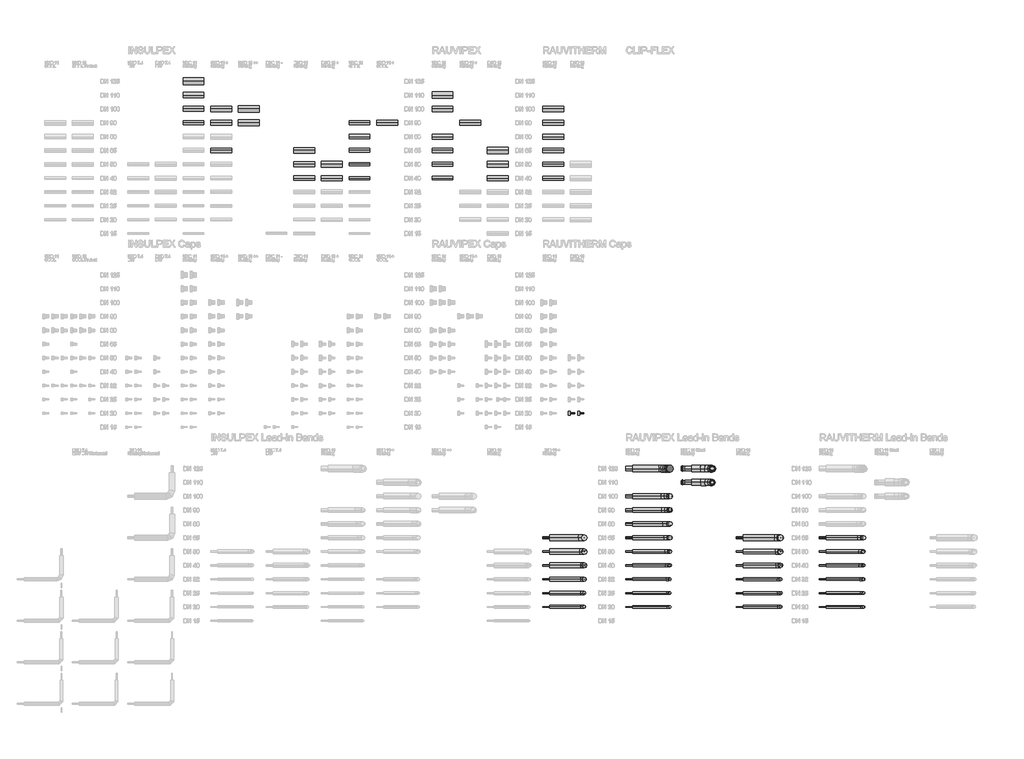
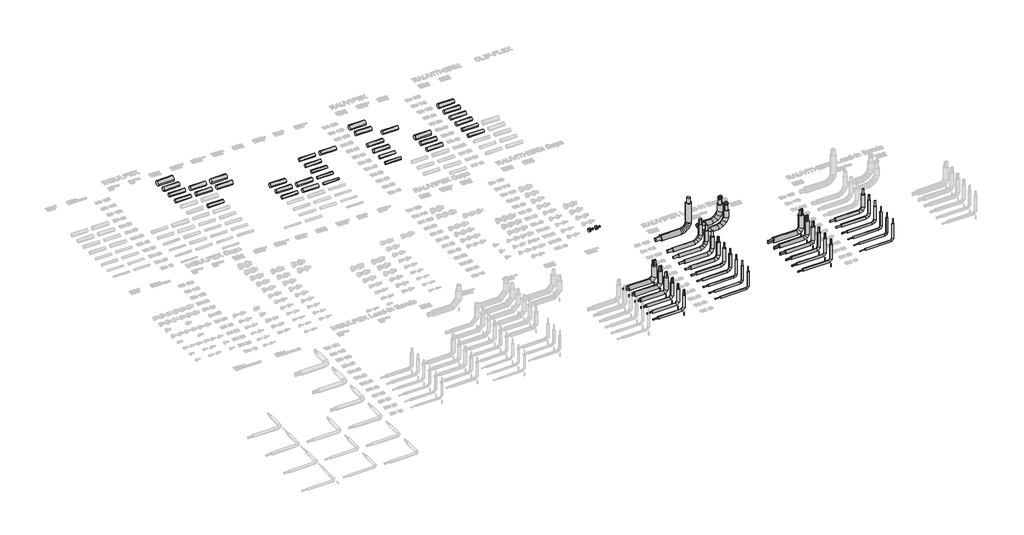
# One storey, part 7 of 44: 36 pipe segments, 32 pipe fittings.
"""IFC4 building model written with IfcOpenShell, lengths in millimetres."""

from ifc_helpers import new_model, si_unit, point, frame, frame_2d, origin, place, context, project, spatial, circle_curve, trimmed, segment, composite_curve, outline, extrude, transform, mapped, element, save
from components import dh_duo_cap_4b5125b2, dh_lead_in_bend_4d10f37f, dh_lead_in_bend_729ed1e1, dh_lead_in_bend_f578bc5f, dh_lead_in_bend_7c9c8f80, dh_lead_in_bend_f66b3f8e, dh_lead_in_bend_a3bf7bc0, dh_lead_in_bend_39a4672d, dh_lead_in_bend_2889cfca, dh_lead_in_bend_01470123, dh_lead_in_bend_c489b661, dh_lead_in_bend_f1abdf10, dh_lead_in_bend_31b992d6, dh_lead_in_bend_53604a29, dh_lead_in_bend_cc4b5283, dh_lead_in_bend_a8513684, dh_lead_in_bend_f3e9e936, dh_lead_in_bend_a209e62e, dh_lead_in_bend_a80b687c, dh_lead_in_bend_594914a1, dh_lead_in_bend_a448e4b1, dh_lead_in_bend_b3935c15, dh_lead_in_bend_179b0c8a, dh_lead_in_bend_0ec1a931, dh_lead_in_bend_c3c84462

model = new_model("IFC4")

# Units and contexts
model_context = context("Model", 3, world=origin())
ifc_project = project(units=[si_unit("LENGTHUNIT", "METRE", prefix="MILLI")], contexts=[model_context])

# Site, building, storey
site = spatial("IfcSite", under=ifc_project)
building = spatial("IfcBuilding", under=site)
storey = spatial("IfcBuildingStorey", under=building, Name="REHAU Starting view", Elevation=0.0)

# Pipe fittings
placement = place(None, origin())
dh_duo_cap_shape = dh_duo_cap_4b5125b2(model_context)
element("IfcPipeFitting", 1, ObjectType="DH_DUO_CAP : RAUVITHERM DUO 11 Heating - Rubber Cap", at=placement, inside=storey, context=model_context, shape_type="MappedRepresentation", body=[
    mapped(dh_duo_cap_shape, transform((32330.0, 7500.0, 0.0), x_axis=(1.0, 0.0, 0.0), y_axis=(0.0, 1.0, 0.0), z_axis=(0.0, 0.0, 1.0))),
])
element("IfcPipeFitting", 2, ObjectType="DH_DUO_CAP : RAUVITHERM DUO 11 Heating - Schrink Cap", at=placement, inside=storey, context=model_context, shape_type="MappedRepresentation", body=[
    mapped(dh_duo_cap_shape, transform((32000.0, 7500.0, 0.0), x_axis=(1.0, 0.0, 0.0), y_axis=(0.0, 1.0, 0.0), z_axis=(0.0, 0.0, 1.0))),
])
dh_lead_in_bend_shape = dh_lead_in_bend_4d10f37f(model_context)
element("IfcPipeFitting", 3, ObjectType="DH_Lead-in Bend : RVT/RVX/RTX DUO 11 Heating Vertical", at=placement, inside=storey, context=model_context, shape_type="MappedRepresentation", body=[
    mapped(dh_lead_in_bend_shape, transform((39600.0, 1000.0, 0.0), x_axis=(1.0, 0.0, 0.0), y_axis=(0.0, 0.0, 1.0), z_axis=(0.0, -1.0, 0.0))),
])
dh_lead_in_bend_2_shape = dh_lead_in_bend_729ed1e1(model_context)
element("IfcPipeFitting", 4, ObjectType="DH_Lead-in Bend : RVT/RVX/RTX UNO 11 Heating Steel", at=placement, inside=storey, context=model_context, shape_type="MappedRepresentation", body=[
    mapped(dh_lead_in_bend_2_shape, transform((37127.0, 5000.0, 0.0), x_axis=(1.0, 0.0, 0.0), y_axis=(0.0, 0.0, 1.0), z_axis=(0.0, -1.0, 0.0))),
])
dh_lead_in_bend_3_shape = dh_lead_in_bend_f578bc5f(model_context)
element("IfcPipeFitting", 5, ObjectType="DH_Lead-in Bend : INSULPEX DUO + 11 Heating Vertical", at=placement, inside=storey, context=model_context, shape_type="MappedRepresentation", body=[
    mapped(dh_lead_in_bend_3_shape, transform((32500.0, 500.0, 0.0), x_axis=(1.0, 0.0, 0.0), y_axis=(0.0, 0.0, 1.0), z_axis=(0.0, -1.0, 0.0))),
])
dh_lead_in_bend_4_shape = dh_lead_in_bend_7c9c8f80(model_context)
element("IfcPipeFitting", 6, ObjectType="DH_Lead-in Bend : RVT/RVX/RTX UNO 11 Heating", at=placement, inside=storey, context=model_context, shape_type="MappedRepresentation", body=[
    mapped(dh_lead_in_bend_4_shape, transform((35600.0, 500.0, 0.0), x_axis=(1.0, 0.0, 0.0), y_axis=(0.0, 0.0, 1.0), z_axis=(0.0, -1.0, 0.0))),
])
element("IfcPipeFitting", 7, ObjectType="DH_Lead-in Bend : RVT/RVX/RTX UNO 11 Heating", at=placement, inside=storey, context=model_context, shape_type="MappedRepresentation", body=[
    mapped(dh_lead_in_bend_4_shape, transform((42600.0, 500.0, 0.0), x_axis=(1.0, 0.0, 0.0), y_axis=(0.0, 0.0, 1.0), z_axis=(0.0, -1.0, 0.0))),
])
dh_lead_in_bend_5_shape = dh_lead_in_bend_f66b3f8e(model_context)
element("IfcPipeFitting", 8, ObjectType="DH_Lead-in Bend : INSULPEX DUO + 11 Heating Vertical", at=placement, inside=storey, context=model_context, shape_type="MappedRepresentation", body=[
    mapped(dh_lead_in_bend_5_shape, transform((32500.0, 1000.0, 0.0), x_axis=(1.0, 0.0, 0.0), y_axis=(0.0, 0.0, 1.0), z_axis=(0.0, -1.0, 0.0))),
])
dh_lead_in_bend_6_shape = dh_lead_in_bend_a3bf7bc0(model_context)
element("IfcPipeFitting", 9, ObjectType="DH_Lead-in Bend : INSULPEX DUO + 11 Heating Vertical", at=placement, inside=storey, context=model_context, shape_type="MappedRepresentation", body=[
    mapped(dh_lead_in_bend_6_shape, transform((32500.0, 1500.0, 0.0), x_axis=(1.0, 0.0, 0.0), y_axis=(0.0, 0.0, 1.0), z_axis=(0.0, -1.0, 0.0))),
])
dh_lead_in_bend_7_shape = dh_lead_in_bend_39a4672d(model_context)
element("IfcPipeFitting", 10, ObjectType="DH_Lead-in Bend : INSULPEX DUO + 11 Heating Vertical", at=placement, inside=storey, context=model_context, shape_type="MappedRepresentation", body=[
    mapped(dh_lead_in_bend_7_shape, transform((32500.0, 2000.0, 0.0), x_axis=(1.0, 0.0, 0.0), y_axis=(0.0, 0.0, 1.0), z_axis=(0.0, -1.0, 0.0))),
])
dh_lead_in_bend_8_shape = dh_lead_in_bend_2889cfca(model_context)
element("IfcPipeFitting", 11, ObjectType="DH_Lead-in Bend : INSULPEX DUO + 11 Heating Vertical", at=placement, inside=storey, context=model_context, shape_type="MappedRepresentation", body=[
    mapped(dh_lead_in_bend_8_shape, transform((32500.0, 2500.0, 0.0), x_axis=(1.0, 0.0, 0.0), y_axis=(0.0, 0.0, 1.0), z_axis=(0.0, -1.0, 0.0))),
])
dh_lead_in_bend_9_shape = dh_lead_in_bend_01470123(model_context)
element("IfcPipeFitting", 12, ObjectType="DH_Lead-in Bend : RVT/RVX/RTX DUO 11 Heating Vertical", at=placement, inside=storey, context=model_context, shape_type="MappedRepresentation", body=[
    mapped(dh_lead_in_bend_9_shape, transform((39600.0, 500.0, 0.0), x_axis=(1.0, 0.0, 0.0), y_axis=(0.0, 0.0, 1.0), z_axis=(0.0, -1.0, 0.0))),
])
dh_lead_in_bend_10_shape = dh_lead_in_bend_c489b661(model_context)
element("IfcPipeFitting", 13, ObjectType="DH_Lead-in Bend : RVT/RVX/RTX DUO 11 Heating Vertical", at=placement, inside=storey, context=model_context, shape_type="MappedRepresentation", body=[
    mapped(dh_lead_in_bend_10_shape, transform((39600.0, 1500.0, 0.0), x_axis=(1.0, 0.0, 0.0), y_axis=(0.0, 0.0, 1.0), z_axis=(0.0, -1.0, 0.0))),
])
dh_lead_in_bend_11_shape = dh_lead_in_bend_f1abdf10(model_context)
element("IfcPipeFitting", 14, ObjectType="DH_Lead-in Bend : RVT/RVX/RTX DUO 11 Heating Vertical", at=placement, inside=storey, context=model_context, shape_type="MappedRepresentation", body=[
    mapped(dh_lead_in_bend_11_shape, transform((39600.0, 2000.0, 0.0), x_axis=(1.0, 0.0, 0.0), y_axis=(0.0, 0.0, 1.0), z_axis=(0.0, -1.0, 0.0))),
])
dh_lead_in_bend_12_shape = dh_lead_in_bend_31b992d6(model_context)
element("IfcPipeFitting", 15, ObjectType="DH_Lead-in Bend : RVT/RVX/RTX DUO 11 Heating Vertical", at=placement, inside=storey, context=model_context, shape_type="MappedRepresentation", body=[
    mapped(dh_lead_in_bend_12_shape, transform((39600.0, 2500.0, 0.0), x_axis=(1.0, 0.0, 0.0), y_axis=(0.0, 0.0, 1.0), z_axis=(0.0, -1.0, 0.0))),
])
dh_lead_in_bend_13_shape = dh_lead_in_bend_53604a29(model_context)
element("IfcPipeFitting", 16, ObjectType="DH_Lead-in Bend : RVT/RVX/RTX DUO 11 Heating Vertical", at=placement, inside=storey, context=model_context, shape_type="MappedRepresentation", body=[
    mapped(dh_lead_in_bend_13_shape, transform((39600.0, 3000.0, 0.0), x_axis=(1.0, 0.0, 0.0), y_axis=(0.0, 0.0, 1.0), z_axis=(0.0, -1.0, 0.0))),
])
dh_lead_in_bend_14_shape = dh_lead_in_bend_cc4b5283(model_context)
element("IfcPipeFitting", 17, ObjectType="DH_Lead-in Bend : RVT/RVX/RTX UNO 11 Heating", at=placement, inside=storey, context=model_context, shape_type="MappedRepresentation", body=[
    mapped(dh_lead_in_bend_14_shape, transform((35600.0, 1000.0, 0.0), x_axis=(1.0, 0.0, 0.0), y_axis=(0.0, 0.0, 1.0), z_axis=(0.0, -1.0, 0.0))),
])
element("IfcPipeFitting", 18, ObjectType="DH_Lead-in Bend : RVT/RVX/RTX UNO 11 Heating", at=placement, inside=storey, context=model_context, shape_type="MappedRepresentation", body=[
    mapped(dh_lead_in_bend_14_shape, transform((42600.0, 1000.0, 0.0), x_axis=(1.0, 0.0, 0.0), y_axis=(0.0, 0.0, 1.0), z_axis=(0.0, -1.0, 0.0))),
])
dh_lead_in_bend_15_shape = dh_lead_in_bend_a8513684(model_context)
element("IfcPipeFitting", 19, ObjectType="DH_Lead-in Bend : RVT/RVX/RTX UNO 11 Heating", at=placement, inside=storey, context=model_context, shape_type="MappedRepresentation", body=[
    mapped(dh_lead_in_bend_15_shape, transform((35600.0, 1500.0, 0.0), x_axis=(1.0, 0.0, 0.0), y_axis=(0.0, 0.0, 1.0), z_axis=(0.0, -1.0, 0.0))),
])
element("IfcPipeFitting", 20, ObjectType="DH_Lead-in Bend : RVT/RVX/RTX UNO 11 Heating", at=placement, inside=storey, context=model_context, shape_type="MappedRepresentation", body=[
    mapped(dh_lead_in_bend_15_shape, transform((42600.0, 1500.0, 0.0), x_axis=(1.0, 0.0, 0.0), y_axis=(0.0, 0.0, 1.0), z_axis=(0.0, -1.0, 0.0))),
])
dh_lead_in_bend_16_shape = dh_lead_in_bend_f3e9e936(model_context)
element("IfcPipeFitting", 21, ObjectType="DH_Lead-in Bend : RVT/RVX/RTX UNO 11 Heating", at=placement, inside=storey, context=model_context, shape_type="MappedRepresentation", body=[
    mapped(dh_lead_in_bend_16_shape, transform((35600.0, 2000.0, 0.0), x_axis=(1.0, 0.0, 0.0), y_axis=(0.0, 0.0, 1.0), z_axis=(0.0, -1.0, 0.0))),
])
element("IfcPipeFitting", 22, ObjectType="DH_Lead-in Bend : RVT/RVX/RTX UNO 11 Heating", at=placement, inside=storey, context=model_context, shape_type="MappedRepresentation", body=[
    mapped(dh_lead_in_bend_16_shape, transform((42600.0, 2000.0, 0.0), x_axis=(1.0, 0.0, 0.0), y_axis=(0.0, 0.0, 1.0), z_axis=(0.0, -1.0, 0.0))),
])
dh_lead_in_bend_17_shape = dh_lead_in_bend_a209e62e(model_context)
element("IfcPipeFitting", 23, ObjectType="DH_Lead-in Bend : RVT/RVX/RTX UNO 11 Heating", at=placement, inside=storey, context=model_context, shape_type="MappedRepresentation", body=[
    mapped(dh_lead_in_bend_17_shape, transform((35600.0, 2500.0, 0.0), x_axis=(1.0, 0.0, 0.0), y_axis=(0.0, 0.0, 1.0), z_axis=(0.0, -1.0, 0.0))),
])
element("IfcPipeFitting", 24, ObjectType="DH_Lead-in Bend : RVT/RVX/RTX UNO 11 Heating", at=placement, inside=storey, context=model_context, shape_type="MappedRepresentation", body=[
    mapped(dh_lead_in_bend_17_shape, transform((42600.0, 2500.0, 0.0), x_axis=(1.0, 0.0, 0.0), y_axis=(0.0, 0.0, 1.0), z_axis=(0.0, -1.0, 0.0))),
])
dh_lead_in_bend_18_shape = dh_lead_in_bend_a80b687c(model_context)
element("IfcPipeFitting", 25, ObjectType="DH_Lead-in Bend : RVT/RVX/RTX UNO 11 Heating", at=placement, inside=storey, context=model_context, shape_type="MappedRepresentation", body=[
    mapped(dh_lead_in_bend_18_shape, transform((35600.0, 3000.0, 0.0), x_axis=(1.0, 0.0, 0.0), y_axis=(0.0, 0.0, 1.0), z_axis=(0.0, -1.0, 0.0))),
])
element("IfcPipeFitting", 26, ObjectType="DH_Lead-in Bend : RVT/RVX/RTX UNO 11 Heating", at=placement, inside=storey, context=model_context, shape_type="MappedRepresentation", body=[
    mapped(dh_lead_in_bend_18_shape, transform((42600.0, 3000.0, 0.0), x_axis=(1.0, 0.0, 0.0), y_axis=(0.0, 0.0, 1.0), z_axis=(0.0, -1.0, 0.0))),
])
dh_lead_in_bend_19_shape = dh_lead_in_bend_594914a1(model_context)
element("IfcPipeFitting", 27, ObjectType="DH_Lead-in Bend : RVT/RVX/RTX UNO 11 Heating", at=placement, inside=storey, context=model_context, shape_type="MappedRepresentation", body=[
    mapped(dh_lead_in_bend_19_shape, transform((35600.0, 3500.0, 0.0), x_axis=(1.0, 0.0, 0.0), y_axis=(0.0, 0.0, 1.0), z_axis=(0.0, -1.0, 0.0))),
])
dh_lead_in_bend_20_shape = dh_lead_in_bend_a448e4b1(model_context)
element("IfcPipeFitting", 28, ObjectType="DH_Lead-in Bend : RVT/RVX/RTX UNO 11 Heating", at=placement, inside=storey, context=model_context, shape_type="MappedRepresentation", body=[
    mapped(dh_lead_in_bend_20_shape, transform((35600.0, 4000.0, 0.0), x_axis=(1.0, 0.0, 0.0), y_axis=(0.0, 0.0, 1.0), z_axis=(0.0, -1.0, 0.0))),
])
dh_lead_in_bend_21_shape = dh_lead_in_bend_b3935c15(model_context)
element("IfcPipeFitting", 29, ObjectType="DH_Lead-in Bend : RVT/RVX/RTX UNO 11 Heating", at=placement, inside=storey, context=model_context, shape_type="MappedRepresentation", body=[
    mapped(dh_lead_in_bend_21_shape, transform((35600.0, 4500.0, 0.0), x_axis=(1.0, 0.0, 0.0), y_axis=(0.0, 0.0, 1.0), z_axis=(0.0, -1.0, 0.0))),
])
dh_lead_in_bend_22_shape = dh_lead_in_bend_179b0c8a(model_context)
element("IfcPipeFitting", 30, ObjectType="DH_Lead-in Bend : RVT/RVX/RTX UNO 11 Heating", at=placement, inside=storey, context=model_context, shape_type="MappedRepresentation", body=[
    mapped(dh_lead_in_bend_22_shape, transform((35600.0, 5500.0, 0.0), x_axis=(1.0, 0.0, 0.0), y_axis=(0.0, 0.0, 1.0), z_axis=(0.0, -1.0, 0.0))),
])
dh_lead_in_bend_23_shape = dh_lead_in_bend_0ec1a931(model_context)
element("IfcPipeFitting", 31, ObjectType="DH_Lead-in Bend : RVT/RVX/RTX UNO 11 Heating Steel", at=placement, inside=storey, context=model_context, shape_type="MappedRepresentation", body=[
    mapped(dh_lead_in_bend_23_shape, transform((37127.0, 5500.0, 0.0), x_axis=(1.0, 0.0, 0.0), y_axis=(0.0, 0.0, 1.0), z_axis=(0.0, -1.0, 0.0))),
])
dh_lead_in_bend_24_shape = dh_lead_in_bend_c3c84462(model_context)
element("IfcPipeFitting", 32, ObjectType="DH_Lead-in Bend : INSULPEX DUO + 11 Heating Vertical", at=placement, inside=storey, context=model_context, shape_type="MappedRepresentation", body=[
    mapped(dh_lead_in_bend_24_shape, transform((32500.0, 3000.0, 0.0), x_axis=(1.0, 0.0, 0.0), y_axis=(0.0, 0.0, 1.0), z_axis=(0.0, -1.0, 0.0))),
])

# Pipe segments
element("IfcPipeSegment", 33, ObjectType="INSULPEX UNO 11 Heating", at=placement, inside=storey, context=model_context, shape_type="SweptSolid", body=[
    extrude(outline(composite_curve([segment(trimmed(circle_curve(frame_2d((18000.0, 0.0)), 80.0), [point((17920.0, 0.0))], [point((18000.0, 80.0))], False, "CARTESIAN"), True, "CONTINUOUS"), segment(trimmed(circle_curve(frame_2d((18000.0, 0.0)), 80.0), [point((18000.0, 80.0))], [point((18080.0, 0.0))], False, "CARTESIAN"), True, "CONTINUOUS"), segment(trimmed(circle_curve(frame_2d((18000.0, 0.0)), 80.0), [point((18080.0, 0.0))], [point((18000.0, -80.0))], False, "CARTESIAN"), True, "CONTINUOUS"), segment(trimmed(circle_curve(frame_2d((18000.0, 0.0)), 80.0), [point((18000.0, -80.0))], [point((17920.0, 0.0))], False, "CARTESIAN"), True, "CONTINUOUS")], self_intersect=False)), frame((18000.0, 0.0, 0.0), z_axis=(1.0, 0.0, 0.0), x_axis=(0.0, 1.0, 0.0)), (0.0, 0.0, 1.0), 750.0),
])
element("IfcPipeSegment", 34, ObjectType="INSULPEX UNO 11 Heating", at=placement, inside=storey, context=model_context, shape_type="SweptSolid", body=[
    extrude(outline(composite_curve([segment(trimmed(circle_curve(frame_2d((18500.0, 0.0)), 90.0), [point((18410.0, 0.0))], [point((18500.0, 90.0))], False, "CARTESIAN"), True, "CONTINUOUS"), segment(trimmed(circle_curve(frame_2d((18500.0, 0.0)), 90.0), [point((18500.0, 90.0))], [point((18590.0, 0.0))], False, "CARTESIAN"), True, "CONTINUOUS"), segment(trimmed(circle_curve(frame_2d((18500.0, 0.0)), 90.0), [point((18590.0, 0.0))], [point((18500.0, -90.0))], False, "CARTESIAN"), True, "CONTINUOUS"), segment(trimmed(circle_curve(frame_2d((18500.0, 0.0)), 90.0), [point((18500.0, -90.0))], [point((18410.0, 0.0))], False, "CARTESIAN"), True, "CONTINUOUS")], self_intersect=False)), frame((18000.0, 0.0, 0.0), z_axis=(1.0, 0.0, 0.0), x_axis=(0.0, 1.0, 0.0)), (0.0, 0.0, 1.0), 750.0),
])
element("IfcPipeSegment", 35, ObjectType="INSULPEX UNO 11 Heating", at=placement, inside=storey, context=model_context, shape_type="SweptSolid", body=[
    extrude(outline(composite_curve([segment(trimmed(circle_curve(frame_2d((19000.0, 0.0)), 100.0), [point((18900.0, 0.0))], [point((19000.0, 100.0))], False, "CARTESIAN"), True, "CONTINUOUS"), segment(trimmed(circle_curve(frame_2d((19000.0, 0.0)), 100.0), [point((19000.0, 100.0))], [point((19100.0, 0.0))], False, "CARTESIAN"), True, "CONTINUOUS"), segment(trimmed(circle_curve(frame_2d((19000.0, 0.0)), 100.0), [point((19100.0, 0.0))], [point((19000.0, -100.0))], False, "CARTESIAN"), True, "CONTINUOUS"), segment(trimmed(circle_curve(frame_2d((19000.0, 0.0)), 100.0), [point((19000.0, -100.0))], [point((18900.0, 0.0))], False, "CARTESIAN"), True, "CONTINUOUS")], self_intersect=False)), frame((18000.0, 0.0, 0.0), z_axis=(1.0, 0.0, 0.0), x_axis=(0.0, 1.0, 0.0)), (0.0, 0.0, 1.0), 750.0),
])
element("IfcPipeSegment", 36, ObjectType="INSULPEX UNO 11 Heating", at=placement, inside=storey, context=model_context, shape_type="SweptSolid", body=[
    extrude(outline(composite_curve([segment(trimmed(circle_curve(frame_2d((19500.0, 0.0)), 125.0), [point((19375.0, 0.0))], [point((19500.0, 125.0))], False, "CARTESIAN"), True, "CONTINUOUS"), segment(trimmed(circle_curve(frame_2d((19500.0, 0.0)), 125.0), [point((19500.0, 125.0))], [point((19625.0, 0.0))], False, "CARTESIAN"), True, "CONTINUOUS"), segment(trimmed(circle_curve(frame_2d((19500.0, 0.0)), 125.0), [point((19625.0, 0.0))], [point((19500.0, -125.0))], False, "CARTESIAN"), True, "CONTINUOUS"), segment(trimmed(circle_curve(frame_2d((19500.0, 0.0)), 125.0), [point((19500.0, -125.0))], [point((19375.0, 0.0))], False, "CARTESIAN"), True, "CONTINUOUS")], self_intersect=False)), frame((18000.0, 0.0, 0.0), z_axis=(1.0, 0.0, 0.0), x_axis=(0.0, 1.0, 0.0)), (0.0, 0.0, 1.0), 750.0),
])
element("IfcPipeSegment", 37, ObjectType="INSULPEX UNO + 11 Heating", at=placement, inside=storey, context=model_context, shape_type="SweptSolid", body=[
    extrude(outline(composite_curve([segment(trimmed(circle_curve(frame_2d((18000.0, 0.0)), 90.0), [point((17910.0, 0.0))], [point((18000.0, 90.0))], False, "CARTESIAN"), True, "CONTINUOUS"), segment(trimmed(circle_curve(frame_2d((18000.0, 0.0)), 90.0), [point((18000.0, 90.0))], [point((18090.0, 0.0))], False, "CARTESIAN"), True, "CONTINUOUS"), segment(trimmed(circle_curve(frame_2d((18000.0, 0.0)), 90.0), [point((18090.0, 0.0))], [point((18000.0, -90.0))], False, "CARTESIAN"), True, "CONTINUOUS"), segment(trimmed(circle_curve(frame_2d((18000.0, 0.0)), 90.0), [point((18000.0, -90.0))], [point((17910.0, 0.0))], False, "CARTESIAN"), True, "CONTINUOUS")], self_intersect=False)), frame((19000.0, 0.0, 0.0), z_axis=(1.0, 0.0, 0.0), x_axis=(0.0, 1.0, 0.0)), (0.0, 0.0, 1.0), 750.0),
])
element("IfcPipeSegment", 38, ObjectType="INSULPEX UNO + 11 Heating", at=placement, inside=storey, context=model_context, shape_type="SweptSolid", body=[
    extrude(outline(composite_curve([segment(trimmed(circle_curve(frame_2d((18500.0, 0.0)), 100.0), [point((18400.0, 0.0))], [point((18500.0, 100.0))], False, "CARTESIAN"), True, "CONTINUOUS"), segment(trimmed(circle_curve(frame_2d((18500.0, 0.0)), 100.0), [point((18500.0, 100.0))], [point((18600.0, 0.0))], False, "CARTESIAN"), True, "CONTINUOUS"), segment(trimmed(circle_curve(frame_2d((18500.0, 0.0)), 100.0), [point((18600.0, 0.0))], [point((18500.0, -100.0))], False, "CARTESIAN"), True, "CONTINUOUS"), segment(trimmed(circle_curve(frame_2d((18500.0, 0.0)), 100.0), [point((18500.0, -100.0))], [point((18400.0, 0.0))], False, "CARTESIAN"), True, "CONTINUOUS")], self_intersect=False)), frame((19000.0, 0.0, 0.0), z_axis=(1.0, 0.0, 0.0), x_axis=(0.0, 1.0, 0.0)), (0.0, 0.0, 1.0), 750.0),
])
element("IfcPipeSegment", 39, ObjectType="INSULPEX UNO + 11 Heating", at=placement, inside=storey, context=model_context, shape_type="SweptSolid", body=[
    extrude(outline(composite_curve([segment(trimmed(circle_curve(frame_2d((17000.0, 0.0)), 80.0), [point((16920.0, 0.0))], [point((17000.0, 80.0))], False, "CARTESIAN"), True, "CONTINUOUS"), segment(trimmed(circle_curve(frame_2d((17000.0, 0.0)), 80.0), [point((17000.0, 80.0))], [point((17080.0, 0.0))], False, "CARTESIAN"), True, "CONTINUOUS"), segment(trimmed(circle_curve(frame_2d((17000.0, 0.0)), 80.0), [point((17080.0, 0.0))], [point((17000.0, -80.0))], False, "CARTESIAN"), True, "CONTINUOUS"), segment(trimmed(circle_curve(frame_2d((17000.0, 0.0)), 80.0), [point((17000.0, -80.0))], [point((16920.0, 0.0))], False, "CARTESIAN"), True, "CONTINUOUS")], self_intersect=False)), frame((19000.0, 0.0, 0.0), z_axis=(1.0, 0.0, 0.0), x_axis=(0.0, 1.0, 0.0)), (0.0, 0.0, 1.0), 750.0),
])
element("IfcPipeSegment", 40, ObjectType="INSULPEX UNO ++ 11 Heating", at=placement, inside=storey, context=model_context, shape_type="SweptSolid", body=[
    extrude(outline(composite_curve([segment(trimmed(circle_curve(frame_2d((18000.0, 0.0)), 100.0), [point((17900.0, 0.0))], [point((18000.0, 100.0))], False, "CARTESIAN"), True, "CONTINUOUS"), segment(trimmed(circle_curve(frame_2d((18000.0, 0.0)), 100.0), [point((18000.0, 100.0))], [point((18100.0, 0.0))], False, "CARTESIAN"), True, "CONTINUOUS"), segment(trimmed(circle_curve(frame_2d((18000.0, 0.0)), 100.0), [point((18100.0, 0.0))], [point((18000.0, -100.0))], False, "CARTESIAN"), True, "CONTINUOUS"), segment(trimmed(circle_curve(frame_2d((18000.0, 0.0)), 100.0), [point((18000.0, -100.0))], [point((17900.0, 0.0))], False, "CARTESIAN"), True, "CONTINUOUS")], self_intersect=False)), frame((20000.0, 0.0, 0.0), z_axis=(1.0, 0.0, 0.0), x_axis=(0.0, 1.0, 0.0)), (0.0, 0.0, 1.0), 750.0),
])
element("IfcPipeSegment", 41, ObjectType="INSULPEX UNO ++ 11 Heating", at=placement, inside=storey, context=model_context, shape_type="SweptSolid", body=[
    extrude(outline(composite_curve([segment(trimmed(circle_curve(frame_2d((18500.0, 0.0)), 112.5), [point((18387.5, 0.0))], [point((18500.0, 112.5))], False, "CARTESIAN"), True, "CONTINUOUS"), segment(trimmed(circle_curve(frame_2d((18500.0, 0.0)), 112.5), [point((18500.0, 112.5))], [point((18612.5, 0.0))], False, "CARTESIAN"), True, "CONTINUOUS"), segment(trimmed(circle_curve(frame_2d((18500.0, 0.0)), 112.5), [point((18612.5, 0.0))], [point((18500.0, -112.5))], False, "CARTESIAN"), True, "CONTINUOUS"), segment(trimmed(circle_curve(frame_2d((18500.0, 0.0)), 112.5), [point((18500.0, -112.5))], [point((18387.5, 0.0))], False, "CARTESIAN"), True, "CONTINUOUS")], self_intersect=False)), frame((20000.0, 0.0, 0.0), z_axis=(1.0, 0.0, 0.0), x_axis=(0.0, 1.0, 0.0)), (0.0, 0.0, 1.0), 750.0),
])
element("IfcPipeSegment", 42, ObjectType="INSULPEX DUO 11 Heating", at=placement, inside=storey, context=model_context, shape_type="SweptSolid", body=[
    extrude(outline(composite_curve([segment(trimmed(circle_curve(frame_2d((16000.0, 0.0)), 80.0), [point((15920.0, 0.0))], [point((16000.0, 80.0))], False, "CARTESIAN"), True, "CONTINUOUS"), segment(trimmed(circle_curve(frame_2d((16000.0, 0.0)), 80.0), [point((16000.0, 80.0))], [point((16080.0, 0.0))], False, "CARTESIAN"), True, "CONTINUOUS"), segment(trimmed(circle_curve(frame_2d((16000.0, 0.0)), 80.0), [point((16080.0, 0.0))], [point((16000.0, -80.0))], False, "CARTESIAN"), True, "CONTINUOUS"), segment(trimmed(circle_curve(frame_2d((16000.0, 0.0)), 80.0), [point((16000.0, -80.0))], [point((15920.0, 0.0))], False, "CARTESIAN"), True, "CONTINUOUS")], self_intersect=False)), frame((22000.0, 0.0, 0.0), z_axis=(1.0, 0.0, 0.0), x_axis=(0.0, 1.0, 0.0)), (0.0, 0.0, 1.0), 750.0),
])
element("IfcPipeSegment", 43, ObjectType="INSULPEX DUO 11 Heating", at=placement, inside=storey, context=model_context, shape_type="SweptSolid", body=[
    extrude(outline(composite_curve([segment(trimmed(circle_curve(frame_2d((16500.0, 0.0)), 90.0), [point((16410.0, 0.0))], [point((16500.0, 90.0))], False, "CARTESIAN"), True, "CONTINUOUS"), segment(trimmed(circle_curve(frame_2d((16500.0, 0.0)), 90.0), [point((16500.0, 90.0))], [point((16590.0, 0.0))], False, "CARTESIAN"), True, "CONTINUOUS"), segment(trimmed(circle_curve(frame_2d((16500.0, 0.0)), 90.0), [point((16590.0, 0.0))], [point((16500.0, -90.0))], False, "CARTESIAN"), True, "CONTINUOUS"), segment(trimmed(circle_curve(frame_2d((16500.0, 0.0)), 90.0), [point((16500.0, -90.0))], [point((16410.0, 0.0))], False, "CARTESIAN"), True, "CONTINUOUS")], self_intersect=False)), frame((22000.0, 0.0, 0.0), z_axis=(1.0, 0.0, 0.0), x_axis=(0.0, 1.0, 0.0)), (0.0, 0.0, 1.0), 750.0),
])
element("IfcPipeSegment", 44, ObjectType="INSULPEX DUO 11 Heating", at=placement, inside=storey, context=model_context, shape_type="SweptSolid", body=[
    extrude(outline(composite_curve([segment(trimmed(circle_curve(frame_2d((17000.0, 0.0)), 100.0), [point((16900.0, 0.0))], [point((17000.0, 100.0))], False, "CARTESIAN"), True, "CONTINUOUS"), segment(trimmed(circle_curve(frame_2d((17000.0, 0.0)), 100.0), [point((17000.0, 100.0))], [point((17100.0, 0.0))], False, "CARTESIAN"), True, "CONTINUOUS"), segment(trimmed(circle_curve(frame_2d((17000.0, 0.0)), 100.0), [point((17100.0, 0.0))], [point((17000.0, -100.0))], False, "CARTESIAN"), True, "CONTINUOUS"), segment(trimmed(circle_curve(frame_2d((17000.0, 0.0)), 100.0), [point((17000.0, -100.0))], [point((16900.0, 0.0))], False, "CARTESIAN"), True, "CONTINUOUS")], self_intersect=False)), frame((22000.0, 0.0, 0.0), z_axis=(1.0, 0.0, 0.0), x_axis=(0.0, 1.0, 0.0)), (0.0, 0.0, 1.0), 750.0),
])
element("IfcPipeSegment", 45, ObjectType="INSULPEX DUO + 11 Heating", at=placement, inside=storey, context=model_context, shape_type="SweptSolid", body=[
    extrude(outline(composite_curve([segment(trimmed(circle_curve(frame_2d((16000.0, 0.0)), 90.0), [point((15910.0, 0.0))], [point((16000.0, 90.0))], False, "CARTESIAN"), True, "CONTINUOUS"), segment(trimmed(circle_curve(frame_2d((16000.0, 0.0)), 90.0), [point((16000.0, 90.0))], [point((16090.0, 0.0))], False, "CARTESIAN"), True, "CONTINUOUS"), segment(trimmed(circle_curve(frame_2d((16000.0, 0.0)), 90.0), [point((16090.0, 0.0))], [point((16000.0, -90.0))], False, "CARTESIAN"), True, "CONTINUOUS"), segment(trimmed(circle_curve(frame_2d((16000.0, 0.0)), 90.0), [point((16000.0, -90.0))], [point((15910.0, 0.0))], False, "CARTESIAN"), True, "CONTINUOUS")], self_intersect=False)), frame((23000.0, 0.0, 0.0), z_axis=(1.0, 0.0, 0.0), x_axis=(0.0, 1.0, 0.0)), (0.0, 0.0, 1.0), 750.0),
])
element("IfcPipeSegment", 46, ObjectType="INSULPEX DUO + 11 Heating", at=placement, inside=storey, context=model_context, shape_type="SweptSolid", body=[
    extrude(outline(composite_curve([segment(trimmed(circle_curve(frame_2d((16500.0, 0.0)), 100.0), [point((16400.0, 0.0))], [point((16500.0, 100.0))], False, "CARTESIAN"), True, "CONTINUOUS"), segment(trimmed(circle_curve(frame_2d((16500.0, 0.0)), 100.0), [point((16500.0, 100.0))], [point((16600.0, 0.0))], False, "CARTESIAN"), True, "CONTINUOUS"), segment(trimmed(circle_curve(frame_2d((16500.0, 0.0)), 100.0), [point((16600.0, 0.0))], [point((16500.0, -100.0))], False, "CARTESIAN"), True, "CONTINUOUS"), segment(trimmed(circle_curve(frame_2d((16500.0, 0.0)), 100.0), [point((16500.0, -100.0))], [point((16400.0, 0.0))], False, "CARTESIAN"), True, "CONTINUOUS")], self_intersect=False)), frame((23000.0, 0.0, 0.0), z_axis=(1.0, 0.0, 0.0), x_axis=(0.0, 1.0, 0.0)), (0.0, 0.0, 1.0), 750.0),
])
element("IfcPipeSegment", 47, ObjectType="INSULPEX UNO 11 COOL", at=placement, inside=storey, context=model_context, shape_type="SweptSolid", body=[
    extrude(outline(composite_curve([segment(trimmed(circle_curve(frame_2d((16000.0, 0.0)), 55.0), [point((15945.0, 0.0))], [point((16000.0, 55.0))], False, "CARTESIAN"), True, "CONTINUOUS"), segment(trimmed(circle_curve(frame_2d((16000.0, 0.0)), 55.0), [point((16000.0, 55.0))], [point((16055.0, 0.0))], False, "CARTESIAN"), True, "CONTINUOUS"), segment(trimmed(circle_curve(frame_2d((16000.0, 0.0)), 55.0), [point((16055.0, 0.0))], [point((16000.0, -55.0))], False, "CARTESIAN"), True, "CONTINUOUS"), segment(trimmed(circle_curve(frame_2d((16000.0, 0.0)), 55.0), [point((16000.0, -55.0))], [point((15945.0, 0.0))], False, "CARTESIAN"), True, "CONTINUOUS")], self_intersect=False)), frame((24000.0, 0.0, 0.0), z_axis=(1.0, 0.0, 0.0), x_axis=(0.0, 1.0, 0.0)), (0.0, 0.0, 1.0), 750.0),
])
element("IfcPipeSegment", 48, ObjectType="INSULPEX UNO 11 COOL", at=placement, inside=storey, context=model_context, shape_type="SweptSolid", body=[
    extrude(outline(composite_curve([segment(trimmed(circle_curve(frame_2d((16500.0, 0.0)), 62.5), [point((16437.5, 0.0))], [point((16500.0, 62.5))], False, "CARTESIAN"), True, "CONTINUOUS"), segment(trimmed(circle_curve(frame_2d((16500.0, 0.0)), 62.5), [point((16500.0, 62.5))], [point((16562.5, 0.0))], False, "CARTESIAN"), True, "CONTINUOUS"), segment(trimmed(circle_curve(frame_2d((16500.0, 0.0)), 62.5), [point((16562.5, 0.0))], [point((16500.0, -62.5))], False, "CARTESIAN"), True, "CONTINUOUS"), segment(trimmed(circle_curve(frame_2d((16500.0, 0.0)), 62.5), [point((16500.0, -62.5))], [point((16437.5, 0.0))], False, "CARTESIAN"), True, "CONTINUOUS")], self_intersect=False)), frame((24000.0, 0.0, 0.0), z_axis=(1.0, 0.0, 0.0), x_axis=(0.0, 1.0, 0.0)), (0.0, 0.0, 1.0), 750.0),
])
element("IfcPipeSegment", 49, ObjectType="INSULPEX UNO 11 COOL", at=placement, inside=storey, context=model_context, shape_type="SweptSolid", body=[
    extrude(outline(composite_curve([segment(trimmed(circle_curve(frame_2d((17000.0, 0.0)), 70.0), [point((16930.0, 0.0))], [point((17000.0, 70.0))], False, "CARTESIAN"), True, "CONTINUOUS"), segment(trimmed(circle_curve(frame_2d((17000.0, 0.0)), 70.0), [point((17000.0, 70.0))], [point((17070.0, 0.0))], False, "CARTESIAN"), True, "CONTINUOUS"), segment(trimmed(circle_curve(frame_2d((17000.0, 0.0)), 70.0), [point((17070.0, 0.0))], [point((17000.0, -70.0))], False, "CARTESIAN"), True, "CONTINUOUS"), segment(trimmed(circle_curve(frame_2d((17000.0, 0.0)), 70.0), [point((17000.0, -70.0))], [point((16930.0, 0.0))], False, "CARTESIAN"), True, "CONTINUOUS")], self_intersect=False)), frame((24000.0, 0.0, 0.0), z_axis=(1.0, 0.0, 0.0), x_axis=(0.0, 1.0, 0.0)), (0.0, 0.0, 1.0), 750.0),
])
element("IfcPipeSegment", 50, ObjectType="INSULPEX UNO 11 COOL", at=placement, inside=storey, context=model_context, shape_type="SweptSolid", body=[
    extrude(outline(composite_curve([segment(trimmed(circle_curve(frame_2d((17500.0, 0.0)), 80.0), [point((17420.0, 0.0))], [point((17500.0, 80.0))], False, "CARTESIAN"), True, "CONTINUOUS"), segment(trimmed(circle_curve(frame_2d((17500.0, 0.0)), 80.0), [point((17500.0, 80.0))], [point((17580.0, 0.0))], False, "CARTESIAN"), True, "CONTINUOUS"), segment(trimmed(circle_curve(frame_2d((17500.0, 0.0)), 80.0), [point((17580.0, 0.0))], [point((17500.0, -80.0))], False, "CARTESIAN"), True, "CONTINUOUS"), segment(trimmed(circle_curve(frame_2d((17500.0, 0.0)), 80.0), [point((17500.0, -80.0))], [point((17420.0, 0.0))], False, "CARTESIAN"), True, "CONTINUOUS")], self_intersect=False)), frame((24000.0, 0.0, 0.0), z_axis=(1.0, 0.0, 0.0), x_axis=(0.0, 1.0, 0.0)), (0.0, 0.0, 1.0), 750.0),
])
element("IfcPipeSegment", 51, ObjectType="INSULPEX UNO 11 COOL", at=placement, inside=storey, context=model_context, shape_type="SweptSolid", body=[
    extrude(outline(composite_curve([segment(trimmed(circle_curve(frame_2d((18000.0, 0.0)), 80.0), [point((17920.0, 0.0))], [point((18000.0, 80.0))], False, "CARTESIAN"), True, "CONTINUOUS"), segment(trimmed(circle_curve(frame_2d((18000.0, 0.0)), 80.0), [point((18000.0, 80.0))], [point((18080.0, 0.0))], False, "CARTESIAN"), True, "CONTINUOUS"), segment(trimmed(circle_curve(frame_2d((18000.0, 0.0)), 80.0), [point((18080.0, 0.0))], [point((18000.0, -80.0))], False, "CARTESIAN"), True, "CONTINUOUS"), segment(trimmed(circle_curve(frame_2d((18000.0, 0.0)), 80.0), [point((18000.0, -80.0))], [point((17920.0, 0.0))], False, "CARTESIAN"), True, "CONTINUOUS")], self_intersect=False)), frame((24000.0, 0.0, 0.0), z_axis=(1.0, 0.0, 0.0), x_axis=(0.0, 1.0, 0.0)), (0.0, 0.0, 1.0), 750.0),
])
element("IfcPipeSegment", 52, ObjectType="INSULPEX UNO + 11 COOL", at=placement, inside=storey, context=model_context, shape_type="SweptSolid", body=[
    extrude(outline(composite_curve([segment(trimmed(circle_curve(frame_2d((18000.0, 0.0)), 90.0), [point((17910.0, 0.0))], [point((18000.0, 90.0))], False, "CARTESIAN"), True, "CONTINUOUS"), segment(trimmed(circle_curve(frame_2d((18000.0, 0.0)), 90.0), [point((18000.0, 90.0))], [point((18090.0, 0.0))], False, "CARTESIAN"), True, "CONTINUOUS"), segment(trimmed(circle_curve(frame_2d((18000.0, 0.0)), 90.0), [point((18090.0, 0.0))], [point((18000.0, -90.0))], False, "CARTESIAN"), True, "CONTINUOUS"), segment(trimmed(circle_curve(frame_2d((18000.0, 0.0)), 90.0), [point((18000.0, -90.0))], [point((17910.0, 0.0))], False, "CARTESIAN"), True, "CONTINUOUS")], self_intersect=False)), frame((25000.0, 0.0, 0.0), z_axis=(1.0, 0.0, 0.0), x_axis=(0.0, 1.0, 0.0)), (0.0, 0.0, 1.0), 750.0),
])
element("IfcPipeSegment", 53, ObjectType="RAUVIPEX UNO 11 Heating", at=placement, inside=storey, context=model_context, shape_type="SweptSolid", body=[
    extrude(outline(composite_curve([segment(trimmed(circle_curve(frame_2d((16000.0, 0.0)), 62.5), [point((15937.5, 0.0))], [point((16000.0, 62.5))], False, "CARTESIAN"), True, "CONTINUOUS"), segment(trimmed(circle_curve(frame_2d((16000.0, 0.0)), 62.5), [point((16000.0, 62.5))], [point((16062.5, 0.0))], False, "CARTESIAN"), True, "CONTINUOUS"), segment(trimmed(circle_curve(frame_2d((16000.0, 0.0)), 62.5), [point((16062.5, 0.0))], [point((16000.0, -62.5))], False, "CARTESIAN"), True, "CONTINUOUS"), segment(trimmed(circle_curve(frame_2d((16000.0, 0.0)), 62.5), [point((16000.0, -62.5))], [point((15937.5, 0.0))], False, "CARTESIAN"), True, "CONTINUOUS")], self_intersect=False)), frame((27000.0, 0.0, 0.0), z_axis=(1.0, 0.0, 0.0), x_axis=(0.0, 1.0, 0.0)), (0.0, 0.0, 1.0), 750.0),
])
element("IfcPipeSegment", 54, ObjectType="RAUVIPEX UNO 11 Heating", at=placement, inside=storey, context=model_context, shape_type="SweptSolid", body=[
    extrude(outline(composite_curve([segment(trimmed(circle_curve(frame_2d((16500.0, 0.0)), 75.0), [point((16425.0, 0.0))], [point((16500.0, 75.0))], False, "CARTESIAN"), True, "CONTINUOUS"), segment(trimmed(circle_curve(frame_2d((16500.0, 0.0)), 75.0), [point((16500.0, 75.0))], [point((16575.0, 0.0))], False, "CARTESIAN"), True, "CONTINUOUS"), segment(trimmed(circle_curve(frame_2d((16500.0, 0.0)), 75.0), [point((16575.0, 0.0))], [point((16500.0, -75.0))], False, "CARTESIAN"), True, "CONTINUOUS"), segment(trimmed(circle_curve(frame_2d((16500.0, 0.0)), 75.0), [point((16500.0, -75.0))], [point((16425.0, 0.0))], False, "CARTESIAN"), True, "CONTINUOUS")], self_intersect=False)), frame((27000.0, 0.0, 0.0), z_axis=(1.0, 0.0, 0.0), x_axis=(0.0, 1.0, 0.0)), (0.0, 0.0, 1.0), 750.0),
])
element("IfcPipeSegment", 55, ObjectType="RAUVIPEX UNO 11 Heating", at=placement, inside=storey, context=model_context, shape_type="SweptSolid", body=[
    extrude(outline(composite_curve([segment(trimmed(circle_curve(frame_2d((17500.0, 0.0)), 87.5), [point((17412.5, 0.0))], [point((17500.0, 87.5))], False, "CARTESIAN"), True, "CONTINUOUS"), segment(trimmed(circle_curve(frame_2d((17500.0, 0.0)), 87.5), [point((17500.0, 87.5))], [point((17587.5, 0.0))], False, "CARTESIAN"), True, "CONTINUOUS"), segment(trimmed(circle_curve(frame_2d((17500.0, 0.0)), 87.5), [point((17587.5, 0.0))], [point((17500.0, -87.5))], False, "CARTESIAN"), True, "CONTINUOUS"), segment(trimmed(circle_curve(frame_2d((17500.0, 0.0)), 87.5), [point((17500.0, -87.5))], [point((17412.5, 0.0))], False, "CARTESIAN"), True, "CONTINUOUS")], self_intersect=False)), frame((27000.0, 0.0, 0.0), z_axis=(1.0, 0.0, 0.0), x_axis=(0.0, 1.0, 0.0)), (0.0, 0.0, 1.0), 750.0),
])
element("IfcPipeSegment", 56, ObjectType="RAUVIPEX UNO 11 Heating", at=placement, inside=storey, context=model_context, shape_type="SweptSolid", body=[
    extrude(outline(composite_curve([segment(trimmed(circle_curve(frame_2d((18500.0, 0.0)), 100.0), [point((18400.0, 0.0))], [point((18500.0, 100.0))], False, "CARTESIAN"), True, "CONTINUOUS"), segment(trimmed(circle_curve(frame_2d((18500.0, 0.0)), 100.0), [point((18500.0, 100.0))], [point((18600.0, 0.0))], False, "CARTESIAN"), True, "CONTINUOUS"), segment(trimmed(circle_curve(frame_2d((18500.0, 0.0)), 100.0), [point((18600.0, 0.0))], [point((18500.0, -100.0))], False, "CARTESIAN"), True, "CONTINUOUS"), segment(trimmed(circle_curve(frame_2d((18500.0, 0.0)), 100.0), [point((18500.0, -100.0))], [point((18400.0, 0.0))], False, "CARTESIAN"), True, "CONTINUOUS")], self_intersect=False)), frame((27000.0, 0.0, 0.0), z_axis=(1.0, 0.0, 0.0), x_axis=(0.0, 1.0, 0.0)), (0.0, 0.0, 1.0), 750.0),
])
element("IfcPipeSegment", 57, ObjectType="RAUVIPEX UNO 11 Heating", at=placement, inside=storey, context=model_context, shape_type="SweptSolid", body=[
    extrude(outline(composite_curve([segment(trimmed(circle_curve(frame_2d((19000.0, 0.0)), 112.5), [point((18887.5, 0.0))], [point((19000.0, 112.5))], False, "CARTESIAN"), True, "CONTINUOUS"), segment(trimmed(circle_curve(frame_2d((19000.0, 0.0)), 112.5), [point((19000.0, 112.5))], [point((19112.5, 0.0))], False, "CARTESIAN"), True, "CONTINUOUS"), segment(trimmed(circle_curve(frame_2d((19000.0, 0.0)), 112.5), [point((19112.5, 0.0))], [point((19000.0, -112.5))], False, "CARTESIAN"), True, "CONTINUOUS"), segment(trimmed(circle_curve(frame_2d((19000.0, 0.0)), 112.5), [point((19000.0, -112.5))], [point((18887.5, 0.0))], False, "CARTESIAN"), True, "CONTINUOUS")], self_intersect=False)), frame((27000.0, 0.0, 0.0), z_axis=(1.0, 0.0, 0.0), x_axis=(0.0, 1.0, 0.0)), (0.0, 0.0, 1.0), 750.0),
])
element("IfcPipeSegment", 58, ObjectType="RAUVIPEX UNO 11 Heating", at=placement, inside=storey, context=model_context, shape_type="SweptSolid", body=[
    extrude(outline(composite_curve([segment(trimmed(circle_curve(frame_2d((17000.0, 0.0)), 87.5), [point((16912.5, 0.0))], [point((17000.0, 87.5))], False, "CARTESIAN"), True, "CONTINUOUS"), segment(trimmed(circle_curve(frame_2d((17000.0, 0.0)), 87.5), [point((17000.0, 87.5))], [point((17087.5, 0.0))], False, "CARTESIAN"), True, "CONTINUOUS"), segment(trimmed(circle_curve(frame_2d((17000.0, 0.0)), 87.5), [point((17087.5, 0.0))], [point((17000.0, -87.5))], False, "CARTESIAN"), True, "CONTINUOUS"), segment(trimmed(circle_curve(frame_2d((17000.0, 0.0)), 87.5), [point((17000.0, -87.5))], [point((16912.5, 0.0))], False, "CARTESIAN"), True, "CONTINUOUS")], self_intersect=False)), frame((27000.0, 0.0, 0.0), z_axis=(1.0, 0.0, 0.0), x_axis=(0.0, 1.0, 0.0)), (0.0, 0.0, 1.0), 750.0),
])
element("IfcPipeSegment", 59, ObjectType="RAUVIPEX UNO + 11 Heating", at=placement, inside=storey, context=model_context, shape_type="SweptSolid", body=[
    extrude(outline(composite_curve([segment(trimmed(circle_curve(frame_2d((18000.0, 0.0)), 87.5), [point((17912.5, 0.0))], [point((18000.0, 87.5))], False, "CARTESIAN"), True, "CONTINUOUS"), segment(trimmed(circle_curve(frame_2d((18000.0, 0.0)), 87.5), [point((18000.0, 87.5))], [point((18087.5, 0.0))], False, "CARTESIAN"), True, "CONTINUOUS"), segment(trimmed(circle_curve(frame_2d((18000.0, 0.0)), 87.5), [point((18087.5, 0.0))], [point((18000.0, -87.5))], False, "CARTESIAN"), True, "CONTINUOUS"), segment(trimmed(circle_curve(frame_2d((18000.0, 0.0)), 87.5), [point((18000.0, -87.5))], [point((17912.5, 0.0))], False, "CARTESIAN"), True, "CONTINUOUS")], self_intersect=False)), frame((28000.0, 0.0, 0.0), z_axis=(1.0, 0.0, 0.0), x_axis=(0.0, 1.0, 0.0)), (0.0, 0.0, 1.0), 750.0),
])
element("IfcPipeSegment", 60, ObjectType="RAUVIPEX DUO 11 Heating", at=placement, inside=storey, context=model_context, shape_type="SweptSolid", body=[
    extrude(outline(composite_curve([segment(trimmed(circle_curve(frame_2d((16000.0, 0.0)), 87.5), [point((15912.5, 0.0))], [point((16000.0, 87.5))], False, "CARTESIAN"), True, "CONTINUOUS"), segment(trimmed(circle_curve(frame_2d((16000.0, 0.0)), 87.5), [point((16000.0, 87.5))], [point((16087.5, 0.0))], False, "CARTESIAN"), True, "CONTINUOUS"), segment(trimmed(circle_curve(frame_2d((16000.0, 0.0)), 87.5), [point((16087.5, 0.0))], [point((16000.0, -87.5))], False, "CARTESIAN"), True, "CONTINUOUS"), segment(trimmed(circle_curve(frame_2d((16000.0, 0.0)), 87.5), [point((16000.0, -87.5))], [point((15912.5, 0.0))], False, "CARTESIAN"), True, "CONTINUOUS")], self_intersect=False)), frame((29000.0, 0.0, 0.0), z_axis=(1.0, 0.0, 0.0), x_axis=(0.0, 1.0, 0.0)), (0.0, 0.0, 1.0), 750.0),
])
element("IfcPipeSegment", 61, ObjectType="RAUVIPEX DUO 11 Heating", at=placement, inside=storey, context=model_context, shape_type="SweptSolid", body=[
    extrude(outline(composite_curve([segment(trimmed(circle_curve(frame_2d((16500.0, 0.0)), 100.0), [point((16400.0, 0.0))], [point((16500.0, 100.0))], False, "CARTESIAN"), True, "CONTINUOUS"), segment(trimmed(circle_curve(frame_2d((16500.0, 0.0)), 100.0), [point((16500.0, 100.0))], [point((16600.0, 0.0))], False, "CARTESIAN"), True, "CONTINUOUS"), segment(trimmed(circle_curve(frame_2d((16500.0, 0.0)), 100.0), [point((16600.0, 0.0))], [point((16500.0, -100.0))], False, "CARTESIAN"), True, "CONTINUOUS"), segment(trimmed(circle_curve(frame_2d((16500.0, 0.0)), 100.0), [point((16500.0, -100.0))], [point((16400.0, 0.0))], False, "CARTESIAN"), True, "CONTINUOUS")], self_intersect=False)), frame((29000.0, 0.0, 0.0), z_axis=(1.0, 0.0, 0.0), x_axis=(0.0, 1.0, 0.0)), (0.0, 0.0, 1.0), 750.0),
])
element("IfcPipeSegment", 62, ObjectType="RAUVIPEX DUO 11 Heating", at=placement, inside=storey, context=model_context, shape_type="SweptSolid", body=[
    extrude(outline(composite_curve([segment(trimmed(circle_curve(frame_2d((17000.0, 0.0)), 112.5), [point((16887.5, 0.0))], [point((17000.0, 112.5))], False, "CARTESIAN"), True, "CONTINUOUS"), segment(trimmed(circle_curve(frame_2d((17000.0, 0.0)), 112.5), [point((17000.0, 112.5))], [point((17112.5, 0.0))], False, "CARTESIAN"), True, "CONTINUOUS"), segment(trimmed(circle_curve(frame_2d((17000.0, 0.0)), 112.5), [point((17112.5, 0.0))], [point((17000.0, -112.5))], False, "CARTESIAN"), True, "CONTINUOUS"), segment(trimmed(circle_curve(frame_2d((17000.0, 0.0)), 112.5), [point((17000.0, -112.5))], [point((16887.5, 0.0))], False, "CARTESIAN"), True, "CONTINUOUS")], self_intersect=False)), frame((29000.0, 0.0, 0.0), z_axis=(1.0, 0.0, 0.0), x_axis=(0.0, 1.0, 0.0)), (0.0, 0.0, 1.0), 750.0),
])
element("IfcPipeSegment", 63, ObjectType="RAUVITHERM UNO 11 Heating", at=placement, inside=storey, context=model_context, shape_type="SweptSolid", body=[
    extrude(outline(composite_curve([segment(trimmed(circle_curve(frame_2d((16000.0, 0.0)), 75.0), [point((15925.0, 0.0))], [point((16000.0, 75.0))], False, "CARTESIAN"), True, "CONTINUOUS"), segment(trimmed(circle_curve(frame_2d((16000.0, 0.0)), 75.0), [point((16000.0, 75.0))], [point((16075.0, 0.0))], False, "CARTESIAN"), True, "CONTINUOUS"), segment(trimmed(circle_curve(frame_2d((16000.0, 0.0)), 75.0), [point((16075.0, 0.0))], [point((16000.0, -75.0))], False, "CARTESIAN"), True, "CONTINUOUS"), segment(trimmed(circle_curve(frame_2d((16000.0, 0.0)), 75.0), [point((16000.0, -75.0))], [point((15925.0, 0.0))], False, "CARTESIAN"), True, "CONTINUOUS")], self_intersect=False)), frame((31000.0, 0.0, 0.0), z_axis=(1.0, 0.0, 0.0), x_axis=(0.0, 1.0, 0.0)), (0.0, 0.0, 1.0), 750.0),
])
element("IfcPipeSegment", 64, ObjectType="RAUVITHERM UNO 11 Heating", at=placement, inside=storey, context=model_context, shape_type="SweptSolid", body=[
    extrude(outline(composite_curve([segment(trimmed(circle_curve(frame_2d((16500.0, 0.0)), 75.0), [point((16425.0, 0.0))], [point((16500.0, 75.0))], False, "CARTESIAN"), True, "CONTINUOUS"), segment(trimmed(circle_curve(frame_2d((16500.0, 0.0)), 75.0), [point((16500.0, 75.0))], [point((16575.0, 0.0))], False, "CARTESIAN"), True, "CONTINUOUS"), segment(trimmed(circle_curve(frame_2d((16500.0, 0.0)), 75.0), [point((16575.0, 0.0))], [point((16500.0, -75.0))], False, "CARTESIAN"), True, "CONTINUOUS"), segment(trimmed(circle_curve(frame_2d((16500.0, 0.0)), 75.0), [point((16500.0, -75.0))], [point((16425.0, 0.0))], False, "CARTESIAN"), True, "CONTINUOUS")], self_intersect=False)), frame((31000.0, 0.0, 0.0), z_axis=(1.0, 0.0, 0.0), x_axis=(0.0, 1.0, 0.0)), (0.0, 0.0, 1.0), 750.0),
])
element("IfcPipeSegment", 65, ObjectType="RAUVITHERM UNO 11 Heating", at=placement, inside=storey, context=model_context, shape_type="SweptSolid", body=[
    extrude(outline(composite_curve([segment(trimmed(circle_curve(frame_2d((17500.0, 0.0)), 87.5), [point((17412.5, 0.0))], [point((17500.0, 87.5))], False, "CARTESIAN"), True, "CONTINUOUS"), segment(trimmed(circle_curve(frame_2d((17500.0, 0.0)), 87.5), [point((17500.0, 87.5))], [point((17587.5, 0.0))], False, "CARTESIAN"), True, "CONTINUOUS"), segment(trimmed(circle_curve(frame_2d((17500.0, 0.0)), 87.5), [point((17587.5, 0.0))], [point((17500.0, -87.5))], False, "CARTESIAN"), True, "CONTINUOUS"), segment(trimmed(circle_curve(frame_2d((17500.0, 0.0)), 87.5), [point((17500.0, -87.5))], [point((17412.5, 0.0))], False, "CARTESIAN"), True, "CONTINUOUS")], self_intersect=False)), frame((31000.0, 0.0, 0.0), z_axis=(1.0, 0.0, 0.0), x_axis=(0.0, 1.0, 0.0)), (0.0, 0.0, 1.0), 750.0),
])
element("IfcPipeSegment", 66, ObjectType="RAUVITHERM UNO 11 Heating", at=placement, inside=storey, context=model_context, shape_type="SweptSolid", body=[
    extrude(outline(composite_curve([segment(trimmed(circle_curve(frame_2d((18000.0, 0.0)), 95.0), [point((17905.0, 0.0))], [point((18000.0, 95.0))], False, "CARTESIAN"), True, "CONTINUOUS"), segment(trimmed(circle_curve(frame_2d((18000.0, 0.0)), 95.0), [point((18000.0, 95.0))], [point((18095.0, 0.0))], False, "CARTESIAN"), True, "CONTINUOUS"), segment(trimmed(circle_curve(frame_2d((18000.0, 0.0)), 95.0), [point((18095.0, 0.0))], [point((18000.0, -95.0))], False, "CARTESIAN"), True, "CONTINUOUS"), segment(trimmed(circle_curve(frame_2d((18000.0, 0.0)), 95.0), [point((18000.0, -95.0))], [point((17905.0, 0.0))], False, "CARTESIAN"), True, "CONTINUOUS")], self_intersect=False)), frame((31000.0, 0.0, 0.0), z_axis=(1.0, 0.0, 0.0), x_axis=(0.0, 1.0, 0.0)), (0.0, 0.0, 1.0), 750.0),
])
element("IfcPipeSegment", 67, ObjectType="RAUVITHERM UNO 11 Heating", at=placement, inside=storey, context=model_context, shape_type="SweptSolid", body=[
    extrude(outline(composite_curve([segment(trimmed(circle_curve(frame_2d((18500.0, 0.0)), 105.0), [point((18395.0, 0.0))], [point((18500.0, 105.0))], False, "CARTESIAN"), True, "CONTINUOUS"), segment(trimmed(circle_curve(frame_2d((18500.0, 0.0)), 105.0), [point((18500.0, 105.0))], [point((18605.0, 0.0))], False, "CARTESIAN"), True, "CONTINUOUS"), segment(trimmed(circle_curve(frame_2d((18500.0, 0.0)), 105.0), [point((18605.0, 0.0))], [point((18500.0, -105.0))], False, "CARTESIAN"), True, "CONTINUOUS"), segment(trimmed(circle_curve(frame_2d((18500.0, 0.0)), 105.0), [point((18500.0, -105.0))], [point((18395.0, 0.0))], False, "CARTESIAN"), True, "CONTINUOUS")], self_intersect=False)), frame((31000.0, 0.0, 0.0), z_axis=(1.0, 0.0, 0.0), x_axis=(0.0, 1.0, 0.0)), (0.0, 0.0, 1.0), 750.0),
])
element("IfcPipeSegment", 68, ObjectType="RAUVITHERM UNO 11 Heating", at=placement, inside=storey, context=model_context, shape_type="SweptSolid", body=[
    extrude(outline(composite_curve([segment(trimmed(circle_curve(frame_2d((17000.0, 0.0)), 87.5), [point((16912.5, 0.0))], [point((17000.0, 87.5))], False, "CARTESIAN"), True, "CONTINUOUS"), segment(trimmed(circle_curve(frame_2d((17000.0, 0.0)), 87.5), [point((17000.0, 87.5))], [point((17087.5, 0.0))], False, "CARTESIAN"), True, "CONTINUOUS"), segment(trimmed(circle_curve(frame_2d((17000.0, 0.0)), 87.5), [point((17087.5, 0.0))], [point((17000.0, -87.5))], False, "CARTESIAN"), True, "CONTINUOUS"), segment(trimmed(circle_curve(frame_2d((17000.0, 0.0)), 87.5), [point((17000.0, -87.5))], [point((16912.5, 0.0))], False, "CARTESIAN"), True, "CONTINUOUS")], self_intersect=False)), frame((31000.0, 0.0, 0.0), z_axis=(1.0, 0.0, 0.0), x_axis=(0.0, 1.0, 0.0)), (0.0, 0.0, 1.0), 750.0),
])

save(model, "model.ifc")
